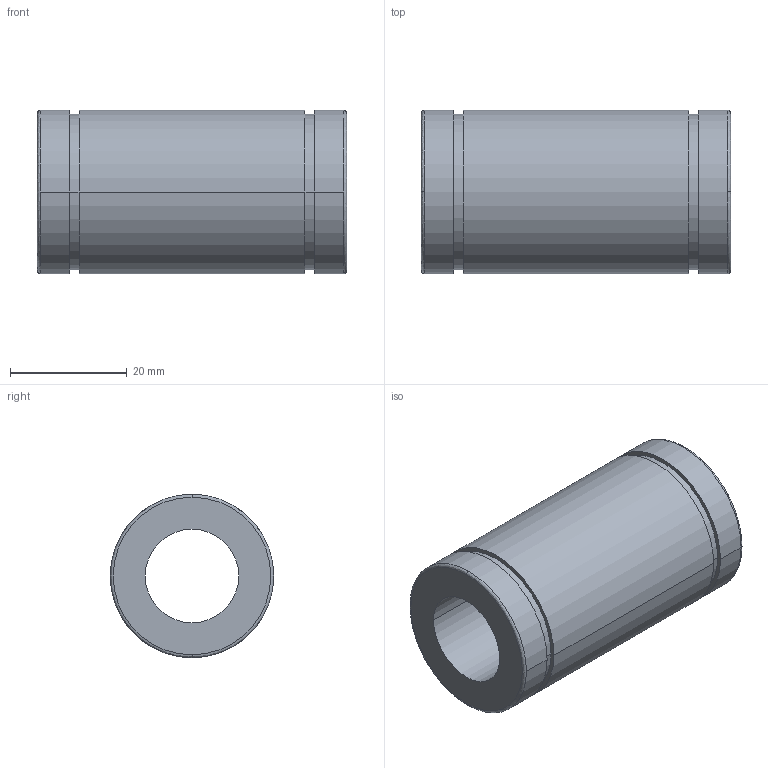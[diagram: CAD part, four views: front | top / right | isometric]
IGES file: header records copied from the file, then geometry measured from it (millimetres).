
Start section: 3D InterOp IGES (Version 21 0 1), Spatial Corp. Copyright (c) 1999-2007.
Global section: file name: N-16VM.igs; native system: Spatial Corp.; preprocessor: 3D InterOp GENERIC/IGES 3.0; author: Noname; organization: Noname; date: 20220516.092709; units: millimetre
Bounding box: 53 x 28 x 28 mm (x, y, z)
Surface area: 8343.2 mm2 (no closed solid volume)
Topology: 0 solids, 0 shells, 22 faces, 100 edges, 100 vertices
Faces by surface type: revolution 16, extrusion 6
